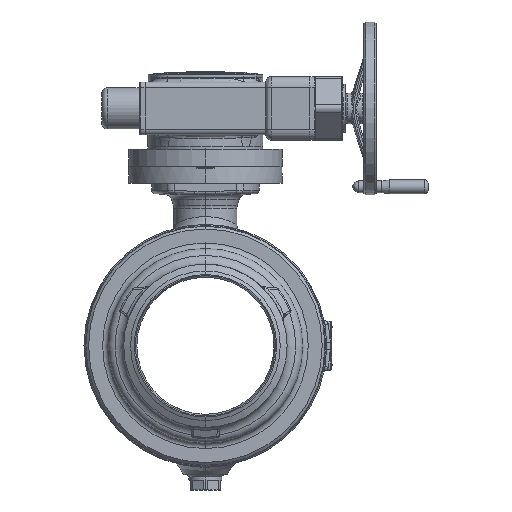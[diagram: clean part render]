
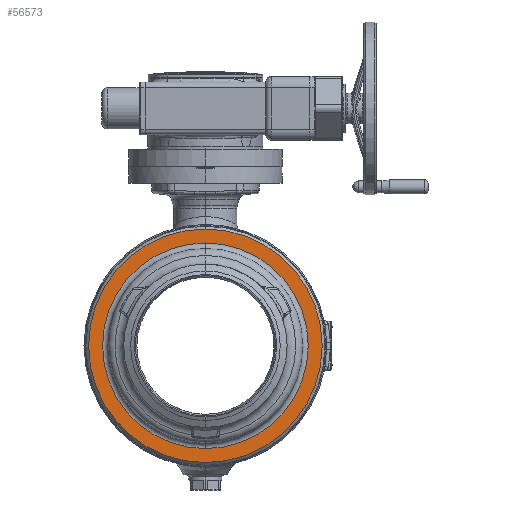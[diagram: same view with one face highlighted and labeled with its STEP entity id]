
A CAD part, left-side view. The second image highlights one B-rep face of the part: STEP entity #56573.
In plain terms, the highlighted planar face has unit normal (-1, 0, 0).
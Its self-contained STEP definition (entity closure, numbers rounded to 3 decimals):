
#10184=CARTESIAN_POINT('',(-135.5,0.,0.));
#10185=DIRECTION('',(-1.,0.,0.));
#10186=DIRECTION('',(0.,0.,1.));
#10187=AXIS2_PLACEMENT_3D('',#10184,#10185,#10186);
#10189=CARTESIAN_POINT('',(-135.5,0.,0.));
#10190=DIRECTION('',(-1.,0.,0.));
#10191=DIRECTION('',(0.,0.,-1.));
#10192=AXIS2_PLACEMENT_3D('',#10189,#10190,#10191);
#10194=CARTESIAN_POINT('',(-135.5,0.,0.));
#10195=DIRECTION('',(1.,0.,0.));
#10196=DIRECTION('',(0.,0.,-1.));
#10197=AXIS2_PLACEMENT_3D('',#10194,#10195,#10196);
#10199=CARTESIAN_POINT('',(-135.5,0.,0.));
#10200=DIRECTION('',(1.,0.,0.));
#10201=DIRECTION('',(0.,0.,1.));
#10202=AXIS2_PLACEMENT_3D('',#10199,#10200,#10201);
#35259=CARTESIAN_POINT('',(-135.5,0.,-187.5));
#35260=CARTESIAN_POINT('',(-135.5,0.,187.5));
#35261=VERTEX_POINT('',#35259);
#35262=VERTEX_POINT('',#35260);
#35517=CARTESIAN_POINT('',(-135.5,0.,213.));
#35518=CARTESIAN_POINT('',(-135.5,0.,-213.));
#35519=VERTEX_POINT('',#35517);
#35520=VERTEX_POINT('',#35518);
#56557=CARTESIAN_POINT('',(-135.5,0.,0.));
#56558=DIRECTION('',(-1.,0.,0.));
#56559=DIRECTION('',(0.,0.,1.));
#56560=AXIS2_PLACEMENT_3D('',#56557,#56558,#56559);
#56561=PLANE('',#56560);
#56562=ORIENTED_EDGE('',*,*,#56547,.F.);
#56564=ORIENTED_EDGE('',*,*,#56563,.F.);
#56565=EDGE_LOOP('',(#56562,#56564));
#56566=FACE_OUTER_BOUND('',#56565,.F.);
#56568=ORIENTED_EDGE('',*,*,#56567,.F.);
#56570=ORIENTED_EDGE('',*,*,#56569,.F.);
#56571=EDGE_LOOP('',(#56568,#56570));
#56572=FACE_BOUND('',#56571,.F.);
#56573=ADVANCED_FACE('',(#56566,#56572),#56561,.T.);
#10188=CIRCLE('',#10187,213.);
#10193=CIRCLE('',#10192,213.);
#10198=CIRCLE('',#10197,187.5);
#10203=CIRCLE('',#10202,187.5);
#56547=EDGE_CURVE('',#35519,#35520,#10188,.T.);
#56563=EDGE_CURVE('',#35520,#35519,#10193,.T.);
#56567=EDGE_CURVE('',#35261,#35262,#10198,.T.);
#56569=EDGE_CURVE('',#35262,#35261,#10203,.T.);
